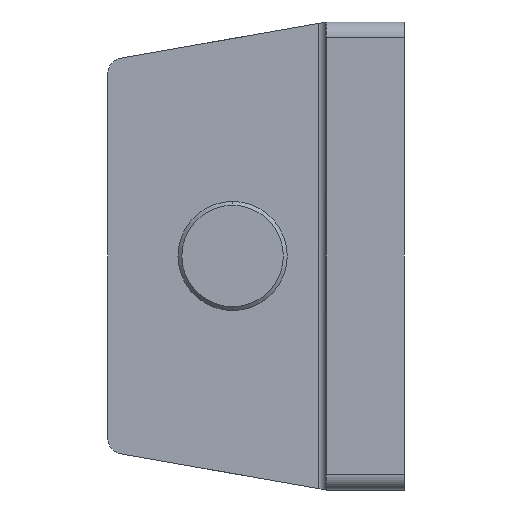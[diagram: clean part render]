
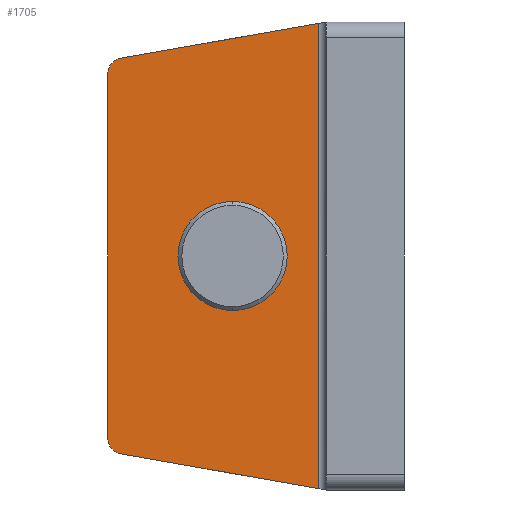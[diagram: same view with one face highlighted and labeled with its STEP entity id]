
A CAD part, left-side view. The second image highlights one B-rep face of the part: STEP entity #1705.
In plain terms, the highlighted planar face has unit normal (-1, 0, 0).
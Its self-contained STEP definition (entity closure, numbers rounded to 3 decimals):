
#6 = EDGE_CURVE ( 'NONE', #2194, #2154, #1402, .T. ) ;
#108 = ORIENTED_EDGE ( 'NONE', *, *, #548, .T. ) ;
#128 = DIRECTION ( 'NONE',  ( -1., 0., 0. ) ) ;
#221 = DIRECTION ( 'NONE',  ( 0., 1., 0. ) ) ;
#233 = DIRECTION ( 'NONE',  ( 0., -0.985, -0.174 ) ) ;
#235 = ORIENTED_EDGE ( 'NONE', *, *, #1319, .T. ) ;
#338 = VERTEX_POINT ( 'NONE', #1599 ) ;
#347 = DIRECTION ( 'NONE',  ( -1., 0., 0. ) ) ;
#388 = CARTESIAN_POINT ( 'NONE',  ( -10., 22., 0. ) ) ;
#396 = AXIS2_PLACEMENT_3D ( 'NONE', #545, #128, #1421 ) ;
#420 = LINE ( 'NONE', #573, #997 ) ;
#490 = VERTEX_POINT ( 'NONE', #1177 ) ;
#545 = CARTESIAN_POINT ( 'NONE',  ( -10., 36., -23.385 ) ) ;
#548 = EDGE_CURVE ( 'NONE', #1576, #1018, #1359, .T. ) ;
#565 = ORIENTED_EDGE ( 'NONE', *, *, #6, .T. ) ;
#573 = CARTESIAN_POINT ( 'NONE',  ( -10., 10.97, 29.829 ) ) ;
#589 = CARTESIAN_POINT ( 'NONE',  ( -10., 22., 0. ) ) ;
#613 = AXIS2_PLACEMENT_3D ( 'NONE', #388, #1683, #695 ) ;
#641 = CARTESIAN_POINT ( 'NONE',  ( -10., 21.23, -28.02 ) ) ;
#644 = VERTEX_POINT ( 'NONE', #1545 ) ;
#651 = EDGE_CURVE ( 'NONE', #644, #338, #1443, .T. ) ;
#695 = DIRECTION ( 'NONE',  ( 0., 1., 0. ) ) ;
#706 = AXIS2_PLACEMENT_3D ( 'NONE', #1337, #347, #1933 ) ;
#785 = ORIENTED_EDGE ( 'NONE', *, *, #1338, .T. ) ;
#833 = LINE ( 'NONE', #906, #1452 ) ;
#856 = EDGE_LOOP ( 'NONE', ( #785, #565, #235, #1201, #1279, #2236 ) ) ;
#906 = CARTESIAN_POINT ( 'NONE',  ( -10., 11., 30. ) ) ;
#956 = AXIS2_PLACEMENT_3D ( 'NONE', #589, #2023, #1321 ) ;
#968 = CARTESIAN_POINT ( 'NONE',  ( -10., 36.347, 25.354 ) ) ;
#997 = VECTOR ( 'NONE', #2080, 1000. ) ;
#1018 = VERTEX_POINT ( 'NONE', #1498 ) ;
#1075 = CARTESIAN_POINT ( 'NONE',  ( -10., 38., 23.385 ) ) ;
#1103 = EDGE_CURVE ( 'NONE', #1018, #1576, #1375, .T. ) ;
#1106 = CARTESIAN_POINT ( 'NONE',  ( -10., 22., 7. ) ) ;
#1109 = AXIS2_PLACEMENT_3D ( 'NONE', #1183, #2219, #221 ) ;
#1144 = DIRECTION ( 'NONE',  ( 0., 0., -1. ) ) ;
#1155 = VECTOR ( 'NONE', #1412, 1000. ) ;
#1177 = CARTESIAN_POINT ( 'NONE',  ( -10., 11., 29.824 ) ) ;
#1183 = CARTESIAN_POINT ( 'NONE',  ( -10., 11., 30. ) ) ;
#1187 = CIRCLE ( 'NONE', #396, 2. ) ;
#1201 = ORIENTED_EDGE ( 'NONE', *, *, #2261, .T. ) ;
#1207 = LINE ( 'NONE', #1550, #1155 ) ;
#1279 = ORIENTED_EDGE ( 'NONE', *, *, #651, .T. ) ;
#1319 = EDGE_CURVE ( 'NONE', #2154, #2105, #1207, .T. ) ;
#1321 = DIRECTION ( 'NONE',  ( 0., 1., 0. ) ) ;
#1337 = CARTESIAN_POINT ( 'NONE',  ( -10., 36., 23.385 ) ) ;
#1338 = EDGE_CURVE ( 'NONE', #490, #2194, #420, .T. ) ;
#1359 = CIRCLE ( 'NONE', #613, 7. ) ;
#1375 = CIRCLE ( 'NONE', #956, 7. ) ;
#1394 = PLANE ( 'NONE',  #1109 ) ;
#1402 = CIRCLE ( 'NONE', #706, 2. ) ;
#1404 = CARTESIAN_POINT ( 'NONE',  ( -10., 38., -23.385 ) ) ;
#1412 = DIRECTION ( 'NONE',  ( 0., 0., -1. ) ) ;
#1421 = DIRECTION ( 'NONE',  ( 0., 1., 0. ) ) ;
#1443 = LINE ( 'NONE', #641, #2267 ) ;
#1452 = VECTOR ( 'NONE', #1144, 1000. ) ;
#1465 = FACE_OUTER_BOUND ( 'NONE', #856, .T. ) ;
#1498 = CARTESIAN_POINT ( 'NONE',  ( -10., 22., -7. ) ) ;
#1545 = CARTESIAN_POINT ( 'NONE',  ( -10., 36.347, -25.354 ) ) ;
#1550 = CARTESIAN_POINT ( 'NONE',  ( -10., 38., 30. ) ) ;
#1576 = VERTEX_POINT ( 'NONE', #1106 ) ;
#1599 = CARTESIAN_POINT ( 'NONE',  ( -10., 11., -29.824 ) ) ;
#1683 = DIRECTION ( 'NONE',  ( 1., 0., 0. ) ) ;
#1705 = ADVANCED_FACE ( 'NONE', ( #2258, #1465 ), #1394, .F. ) ;
#1933 = DIRECTION ( 'NONE',  ( 0., 1., 0. ) ) ;
#1953 = EDGE_LOOP ( 'NONE', ( #108, #2263 ) ) ;
#2023 = DIRECTION ( 'NONE',  ( 1., 0., 0. ) ) ;
#2080 = DIRECTION ( 'NONE',  ( 0., 0.985, -0.174 ) ) ;
#2105 = VERTEX_POINT ( 'NONE', #1404 ) ;
#2154 = VERTEX_POINT ( 'NONE', #1075 ) ;
#2194 = VERTEX_POINT ( 'NONE', #968 ) ;
#2219 = DIRECTION ( 'NONE',  ( 1., 0., 0. ) ) ;
#2236 = ORIENTED_EDGE ( 'NONE', *, *, #2241, .F. ) ;
#2241 = EDGE_CURVE ( 'NONE', #490, #338, #833, .T. ) ;
#2258 = FACE_BOUND ( 'NONE', #1953, .T. ) ;
#2261 = EDGE_CURVE ( 'NONE', #2105, #644, #1187, .T. ) ;
#2263 = ORIENTED_EDGE ( 'NONE', *, *, #1103, .T. ) ;
#2267 = VECTOR ( 'NONE', #233, 1000. ) ;
